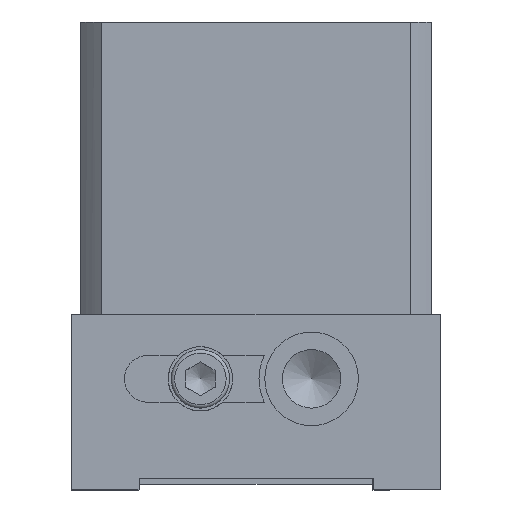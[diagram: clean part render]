
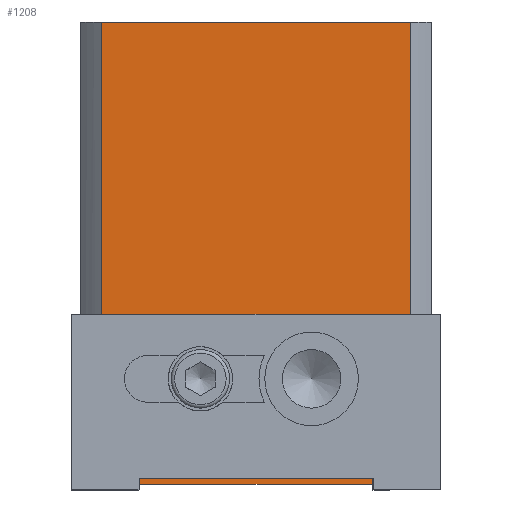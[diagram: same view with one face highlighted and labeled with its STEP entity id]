
A CAD part, left-side view. The second image highlights one B-rep face of the part: STEP entity #1208.
In plain terms, the highlighted planar face has unit normal (-1, 0, 0).
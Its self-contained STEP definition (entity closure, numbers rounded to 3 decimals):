
#1131=CARTESIAN_POINT('',(-30.,56.458,0.0));
#1132=DIRECTION('',(-1.0,0.0,0.0));
#1133=DIRECTION('',(0.0,0.0,1.0));
#1134=AXIS2_PLACEMENT_3D('',#1131,#1132,#1133);
#1135=PLANE('',#1134);
#1136=CARTESIAN_POINT('',(-30.,3.542,0.0));
#1137=VERTEX_POINT('',#1136);
#1138=CARTESIAN_POINT('',(-30.,3.542,-76.542));
#1139=VERTEX_POINT('',#1138);
#1140=CARTESIAN_POINT('',(-30.,3.542,0.0));
#1141=DIRECTION('',(0.0,0.0,-1.0));
#1142=VECTOR('',#1141,76.542);
#1143=LINE('',#1140,#1142);
#1144=EDGE_CURVE('',#1137,#1139,#1143,.T.);
#1145=ORIENTED_EDGE('',*,*,#1144,.F.);
#1146=CARTESIAN_POINT('',(-30.,56.458,0.0));
#1147=VERTEX_POINT('',#1146);
#1148=CARTESIAN_POINT('',(-30.0,56.458,0.0));
#1149=DIRECTION('',(0.0,-1.0,0.0));
#1150=VECTOR('',#1149,52.915);
#1151=LINE('',#1148,#1150);
#1152=EDGE_CURVE('',#1147,#1137,#1151,.T.);
#1153=ORIENTED_EDGE('',*,*,#1152,.F.);
#1154=CARTESIAN_POINT('',(-30.,56.458,-76.542));
#1155=VERTEX_POINT('',#1154);
#1156=CARTESIAN_POINT('',(-30.,56.458,0.0));
#1157=DIRECTION('',(0.0,0.0,-1.0));
#1158=VECTOR('',#1157,76.542);
#1159=LINE('',#1156,#1158);
#1160=EDGE_CURVE('',#1147,#1155,#1159,.T.);
#1161=ORIENTED_EDGE('',*,*,#1160,.T.);
#1162=CARTESIAN_POINT('',(-30.,54.,-79.0));
#1163=VERTEX_POINT('',#1162);
#1164=CARTESIAN_POINT('',(-30.,54.,-79.0));
#1165=DIRECTION('',(0.0,0.707,0.707));
#1166=VECTOR('',#1165,3.475);
#1167=LINE('',#1164,#1166);
#1168=EDGE_CURVE('',#1163,#1155,#1167,.T.);
#1169=ORIENTED_EDGE('',*,*,#1168,.F.);
#1170=CARTESIAN_POINT('',(-30.,6.,-79.0));
#1171=VERTEX_POINT('',#1170);
#1172=CARTESIAN_POINT('',(-30.,54.,-79.0));
#1173=DIRECTION('',(0.0,-1.0,0.0));
#1174=VECTOR('',#1173,48.0);
#1175=LINE('',#1172,#1174);
#1176=EDGE_CURVE('',#1163,#1171,#1175,.T.);
#1177=ORIENTED_EDGE('',*,*,#1176,.T.);
#1178=CARTESIAN_POINT('',(-30.,3.542,-76.542));
#1179=DIRECTION('',(0.0,0.707,-0.707));
#1180=VECTOR('',#1179,3.475);
#1181=LINE('',#1178,#1180);
#1182=EDGE_CURVE('',#1139,#1171,#1181,.T.);
#1183=ORIENTED_EDGE('',*,*,#1182,.F.);
#1184=EDGE_LOOP('',(#1145,#1153,#1161,#1169,#1177,#1183));
#1185=FACE_OUTER_BOUND('',#1184,.T.);
#1186=CARTESIAN_POINT('',(-30.,20.5,-53.));
#1187=VERTEX_POINT('',#1186);
#1188=CARTESIAN_POINT('',(-30.,20.5,-61.0));
#1189=DIRECTION('',(-1.0,0.0,0.0));
#1190=DIRECTION('',(0.0,-1.0,0.0));
#1191=AXIS2_PLACEMENT_3D('',#1188,#1189,#1190);
#1192=CIRCLE('',#1191,8.0);
#1193=EDGE_CURVE('',#1187,#1187,#1192,.T.);
#1194=ORIENTED_EDGE('',*,*,#1193,.F.);
#1195=EDGE_LOOP('',(#1194));
#1196=FACE_BOUND('',#1195,.T.);
#1197=CARTESIAN_POINT('',(-30.,39.5,-53.));
#1198=VERTEX_POINT('',#1197);
#1199=CARTESIAN_POINT('',(-30.,39.5,-61.));
#1200=DIRECTION('',(-1.0,0.0,0.0));
#1201=DIRECTION('',(0.0,1.0,0.0));
#1202=AXIS2_PLACEMENT_3D('',#1199,#1200,#1201);
#1203=CIRCLE('',#1202,8.0);
#1204=EDGE_CURVE('',#1198,#1198,#1203,.T.);
#1205=ORIENTED_EDGE('',*,*,#1204,.F.);
#1206=EDGE_LOOP('',(#1205));
#1207=FACE_BOUND('',#1206,.T.);
#1208=ADVANCED_FACE('',(#1185,#1196,#1207),#1135,.T.);
